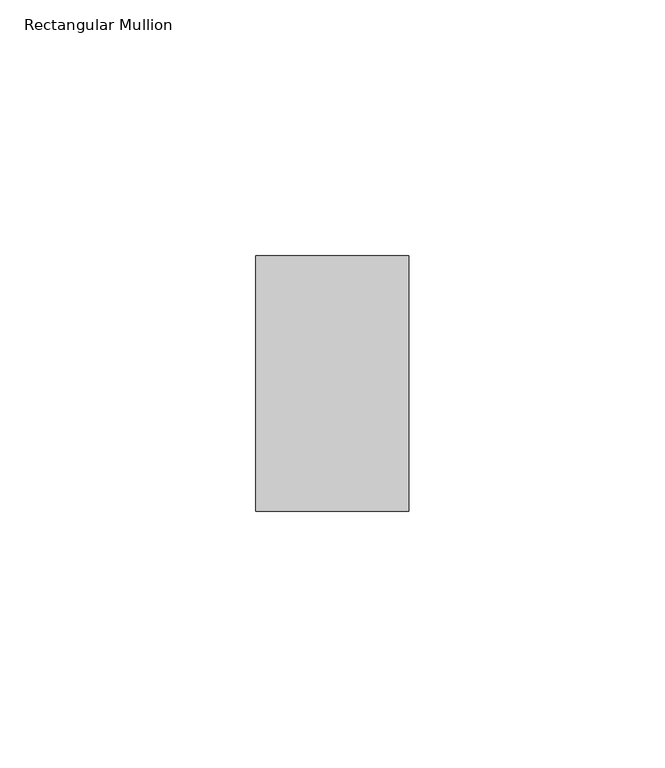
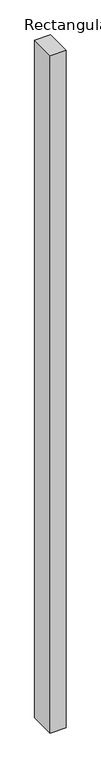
"""IFC4 building model written with IfcOpenShell, lengths in millimetres: member geometry, Rectangular Mullion : ARQ_TV_MULL_50x30mm."""

from ifc_helpers import new_model, si_unit, frame, origin, place, context, project, spatial, polyline, outline, extrude, source, transform, mapped, element, save


def rectangular_mullion_823d3a73(model_context):
    return source(origin(), model_context, "Body", "SweptSolid", [
        extrude(outline(polyline([(0.0, 25.0), (0.0, -25.0), (-30.0, -25.0), (-30.0, 25.0), (0.0, 25.0)])), frame((0.0, 0.0, -1336.2351845), z_axis=(0.0, 0.0, 1.0), x_axis=(1.0, 0.0, 0.0)), (0.0, 0.0, 1.0), 1336.2351845),
    ])


if __name__ == "__main__":
    model = new_model("IFC4")
    model_context = context("Model", 3, world=origin())
    ifc_project = project(units=[si_unit("LENGTHUNIT", "METRE", prefix="MILLI")], contexts=[model_context])
    site = spatial("IfcSite", under=ifc_project)
    building = spatial("IfcBuilding", under=site)
    placement = place(None, origin())
    rectangular_mullion_shape = rectangular_mullion_823d3a73(model_context)
    element("IfcMember", 1, ObjectType="Rectangular Mullion : ARQ_TV_MULL_50x30mm", at=placement, inside=building, context=model_context, shape_type="MappedRepresentation", body=[
        mapped(rectangular_mullion_shape, transform((0.0, 0.0, 0.0), x_axis=(1.0, 0.0, 0.0), y_axis=(0.0, 1.0, 0.0), z_axis=(0.0, 0.0, 1.0))),
    ])
    save(model, "model.ifc")
